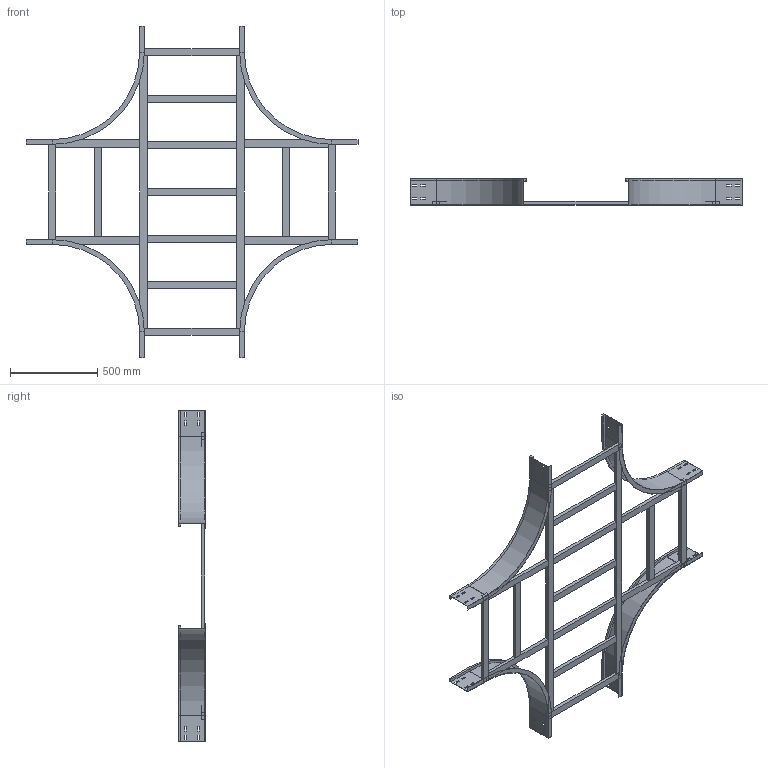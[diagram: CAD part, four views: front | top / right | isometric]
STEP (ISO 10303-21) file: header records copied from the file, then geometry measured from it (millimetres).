
FILE_DESCRIPTION (( 'STEP AP214' ), '1' );
FILE_NAME ('17J5F600.step', '2025-02-21T16:28:49', ( '' ), ( '' ), 'SwSTEP 2.0', 'SolidWorks 2023', '' );
FILE_SCHEMA (( 'AUTOMOTIVE_DESIGN' ));
Length unit declared in the file: millimetre
Products named in the file (7): TRAVERSINO_INTERMEDIO_X_R500+600; TRAVERSINO_LONG._R500+600; TRAVERSINO_VERT_R500; LONGH.INTERNO 90°_H150_R500; 17J5F600; TRAVERSINO_600; TRAVERSINO_COPPIA_600
Assembly tree (21 placements, depth 2):
  17J5F600
    LONGH.INTERNO 90°_H150_R500  x4
    TRAVERSINO_600  x4
    TRAVERSINO_LONG._R500+600  x2
    TRAVERSINO_INTERMEDIO_X_R500+600  x5
    TRAVERSINO_VERT_R500  x4
    TRAVERSINO_COPPIA_600  x2
Bounding box: 1900 x 150 x 1900 mm (x, y, z)
Volume: 11295597.2 mm3; surface area: 3042914.3 mm2
Topology: 21 solids, 21 shells, 334 faces, 812 edges, 520 vertices
Faces by surface type: plane 318, cylinder 16
Entity records: 2868 total; most frequent: CARTESIAN_POINT 460, DIRECTION 444, ORIENTED_EDGE 424, EDGE_CURVE 212, LINE 204, VECTOR 204, VERTEX_POINT 136, AXIS2_PLACEMENT_3D 120
